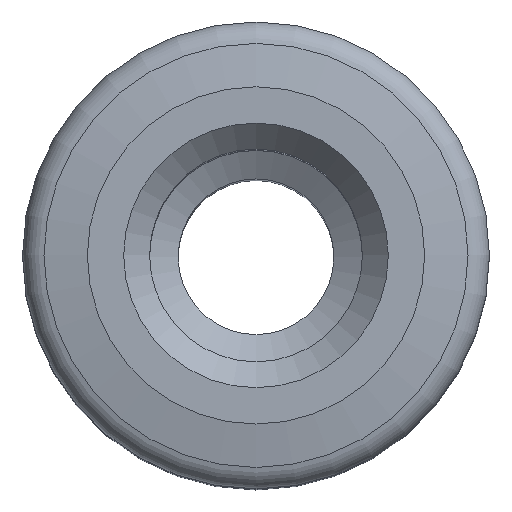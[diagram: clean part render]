
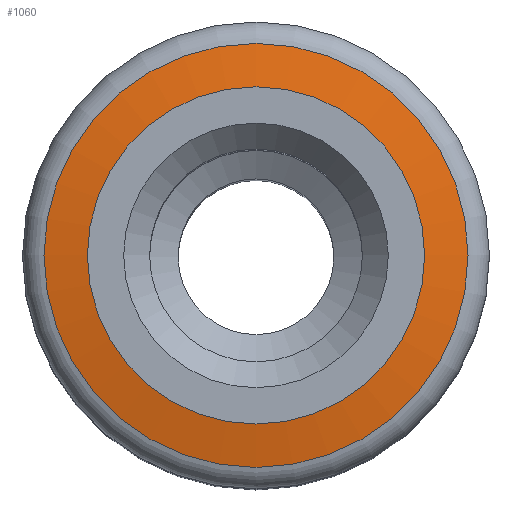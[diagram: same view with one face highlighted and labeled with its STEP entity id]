
A CAD part, top view. The second image highlights one B-rep face of the part: STEP entity #1060.
In plain terms, the highlighted conical face has half-angle 80 degrees and reference radius 4.087 mm.
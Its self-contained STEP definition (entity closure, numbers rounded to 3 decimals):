
#1060=ADVANCED_FACE('', (#1070,#1080), #1090, .T.);
#3430=AXIS2_PLACEMENT_3D('Ax2Pl3d', #3440, #3450, #3460);
#3470=AXIS2_PLACEMENT_3D('Ax2Pl3d', #3480, #3490, #3500);
#3510=AXIS2_PLACEMENT_3D('Ax2Pl3d', #3520, #3530, #3540);
#3440=CARTESIAN_POINT('HicPkt', (7.201,4.061,
33.895));
#4380=CARTESIAN_POINT('', (11.288,4.061,33.895));
#3480=CARTESIAN_POINT('HicPkt', (7.201,4.061,
33.895));
#3520=CARTESIAN_POINT('HicPkt', (7.201,4.061,
34.043));
#4390=CARTESIAN_POINT('', (10.451,4.061,34.043));
#4700=CIRCLE('Circle', #3430, 4.087);
#4710=CIRCLE('Circle', #3510, 3.25);
#1090=CONICAL_SURFACE('Kegel', #3470, 4.087, 
1.396);
#3450=DIRECTION('Axis', (0.,0.,1.));
#3460=DIRECTION('RefDirection', (1.,0.,-0.));
#3490=DIRECTION('Axis', (0.,0.,-1.));
#3500=DIRECTION('RefDirection', (-1.,-0.,0.));
#3530=DIRECTION('Axis', (0.,0.,1.));
#3540=DIRECTION('RefDirection', (1.,0.,-0.));
#6320=EDGE_CURVE('', #6330, #6330, #4700, .T.);
#6340=EDGE_CURVE('', #6350, #6350, #4710, .T.);
#7440=EDGE_LOOP('Edge_loop', (#7450));
#7460=EDGE_LOOP('Edge_loop', (#7470));
#1080=FACE_BOUND('', #7460, .T.);
#1070=FACE_OUTER_BOUND('Face_outer_bound', #7440, .T.);
#7450=ORIENTED_EDGE('', *, *, #6320, .T.);
#7470=ORIENTED_EDGE('', *, *, #6340, .F.);
#6330=VERTEX_POINT('', #4380);
#6350=VERTEX_POINT('', #4390);
